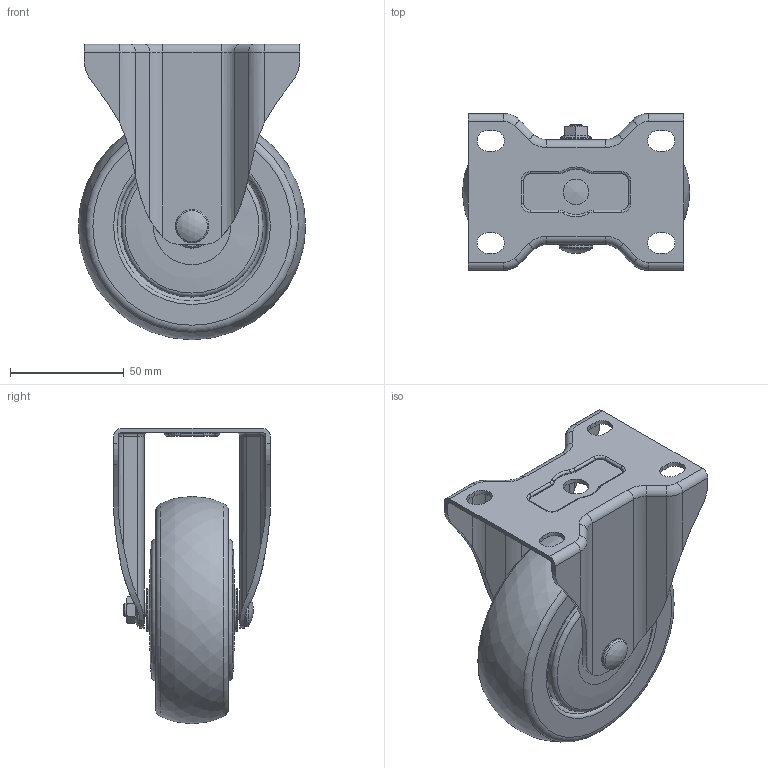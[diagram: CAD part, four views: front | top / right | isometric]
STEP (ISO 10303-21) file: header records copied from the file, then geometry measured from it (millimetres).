
FILE_DESCRIPTION((''),'2;1');
FILE_NAME('E:\GL-홈피용3D\3d step\가져온 구성요소\GL-100-ARF\GL-100-ARF.stp','2011-11-21T09:28:03',('Administrator'),(''),'Autodesk Inventor 2011','Autodesk Inventor 2011','');
FILE_SCHEMA(('AUTOMOTIVE_DESIGN { 1 0 10303 214 1 1 1 1 }'));
Length unit declared in the file: millimetre
Products named in the file (1): GL-100-ARF
Bounding box: 100 x 69 x 130 mm (x, y, z)
Volume: 222679.9 mm3; surface area: 94002.8 mm2
Topology: 6 solids, 8 shells, 334 faces, 822 edges, 526 vertices
Faces by surface type: cylinder 123, plane 94, torus 91, cone 14, bspline 11, sphere 1
Full cylindrical faces by diameter (mm): 6 x2, 6.2 x1, 8 x1, 8.2 x2, 11.2 x1, 14 x1, 14.6 x1, 15 x3, 19 x2, 21.667 x2, 21.867 x2, 28.133 x2, 28.333 x2, 32.4 x2, 43 x2, 47 x2, 59.5 x2, 62.5 x2, 66 x2
Entity records: 9248 total; most frequent: CARTESIAN_POINT 2022, DIRECTION 1590, ORIENTED_EDGE 1298, AXIS2_PLACEMENT_3D 681, EDGE_CURVE 649, EDGE_LOOP 487, VERTEX_POINT 456, CIRCLE 357
